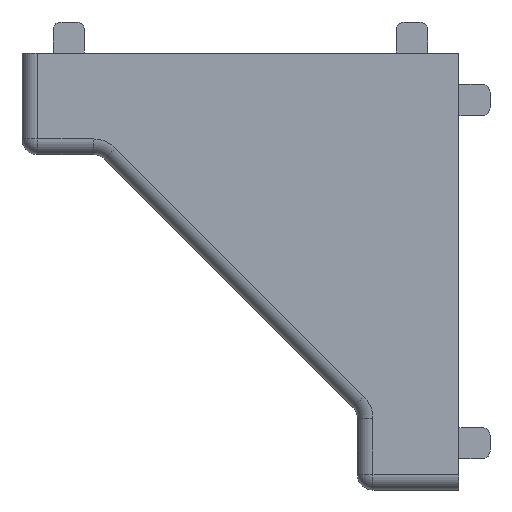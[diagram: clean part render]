
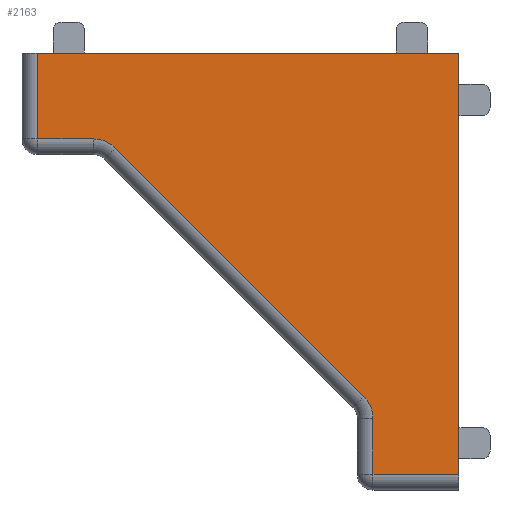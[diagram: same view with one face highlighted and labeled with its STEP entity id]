
A CAD part, left-side view. The second image highlights one B-rep face of the part: STEP entity #2163.
In plain terms, the highlighted planar face has unit normal (-1, 0, 0).
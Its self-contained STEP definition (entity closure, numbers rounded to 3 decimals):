
#166 = CARTESIAN_POINT ( 'NONE',  ( 0., 27., 0. ) ) ;
#172 = LINE ( 'NONE', #3072, #867 ) ;
#183 = CARTESIAN_POINT ( 'NONE',  ( 0., 27., -5.5 ) ) ;
#232 = DIRECTION ( 'NONE',  ( 0., -1., 0. ) ) ;
#270 = EDGE_CURVE ( 'NONE', #1317, #2797, #172, .T. ) ;
#297 = DIRECTION ( 'NONE',  ( 0., -0.707, -0.707 ) ) ;
#337 = EDGE_CURVE ( 'NONE', #927, #1317, #1480, .T. ) ;
#424 = VERTEX_POINT ( 'NONE', #2324 ) ;
#451 = DIRECTION ( 'NONE',  ( 0., 0., -1. ) ) ;
#495 = PLANE ( 'NONE',  #3065 ) ;
#530 = EDGE_CURVE ( 'NONE', #1952, #837, #3011, .T. ) ;
#611 = CARTESIAN_POINT ( 'NONE',  ( 0., 0., -5.5 ) ) ;
#642 = ORIENTED_EDGE ( 'NONE', *, *, #270, .T. ) ;
#668 = CARTESIAN_POINT ( 'NONE',  ( 0., 14.043, -14.043 ) ) ;
#741 = DIRECTION ( 'NONE',  ( 0., 0., -1. ) ) ;
#745 = ORIENTED_EDGE ( 'NONE', *, *, #2110, .T. ) ;
#816 = ORIENTED_EDGE ( 'NONE', *, *, #530, .F. ) ;
#828 = CARTESIAN_POINT ( 'NONE',  ( 0., 0., -28. ) ) ;
#837 = VERTEX_POINT ( 'NONE', #1596 ) ;
#867 = VECTOR ( 'NONE', #2699, 1000. ) ;
#927 = VERTEX_POINT ( 'NONE', #1418 ) ;
#973 = LINE ( 'NONE', #611, #3150 ) ;
#1035 = LINE ( 'NONE', #668, #2206 ) ;
#1108 = CARTESIAN_POINT ( 'NONE',  ( 0., 5.5, 0. ) ) ;
#1109 = VECTOR ( 'NONE', #1939, 1000. ) ;
#1136 = ORIENTED_EDGE ( 'NONE', *, *, #337, .T. ) ;
#1140 = CIRCLE ( 'NONE', #2071, 2. ) ;
#1180 = EDGE_CURVE ( 'NONE', #837, #2797, #1570, .T. ) ;
#1198 = EDGE_LOOP ( 'NONE', ( #816, #2906, #1751, #2289, #745, #2154, #1136, #642, #2658 ) ) ;
#1274 = CARTESIAN_POINT ( 'NONE',  ( 0., 22., -6.086 ) ) ;
#1317 = VERTEX_POINT ( 'NONE', #1705 ) ;
#1392 = AXIS2_PLACEMENT_3D ( 'NONE', #3062, #2971, #2598 ) ;
#1418 = CARTESIAN_POINT ( 'NONE',  ( 0., 5.5, -23.414 ) ) ;
#1454 = EDGE_CURVE ( 'NONE', #2661, #424, #973, .T. ) ;
#1480 = LINE ( 'NONE', #1108, #2698 ) ;
#1570 = LINE ( 'NONE', #828, #2696 ) ;
#1596 = CARTESIAN_POINT ( 'NONE',  ( 0., 0., 0. ) ) ;
#1705 = CARTESIAN_POINT ( 'NONE',  ( 0., 5.5, -27. ) ) ;
#1751 = ORIENTED_EDGE ( 'NONE', *, *, #1454, .T. ) ;
#1861 = VERTEX_POINT ( 'NONE', #3045 ) ;
#1939 = DIRECTION ( 'NONE',  ( 0., 0., -1. ) ) ;
#1952 = VERTEX_POINT ( 'NONE', #166 ) ;
#2008 = CIRCLE ( 'NONE', #1392, 2. ) ;
#2071 = AXIS2_PLACEMENT_3D ( 'NONE', #3603, #3234, #2860 ) ;
#2110 = EDGE_CURVE ( 'NONE', #3274, #1861, #1035, .T. ) ;
#2118 = FACE_OUTER_BOUND ( 'NONE', #1198, .T. ) ;
#2154 = ORIENTED_EDGE ( 'NONE', *, *, #3630, .F. ) ;
#2163 = ADVANCED_FACE ( 'NONE', ( #2118 ), #495, .T. ) ;
#2206 = VECTOR ( 'NONE', #297, 1000. ) ;
#2258 = DIRECTION ( 'NONE',  ( 0., -1., 0. ) ) ;
#2289 = ORIENTED_EDGE ( 'NONE', *, *, #2505, .F. ) ;
#2308 = CARTESIAN_POINT ( 'NONE',  ( 0., 27., -5.5 ) ) ;
#2324 = CARTESIAN_POINT ( 'NONE',  ( 0., 23.414, -5.5 ) ) ;
#2505 = EDGE_CURVE ( 'NONE', #3274, #424, #1140, .T. ) ;
#2598 = DIRECTION ( 'NONE',  ( 0., 0., 1. ) ) ;
#2633 = CARTESIAN_POINT ( 'NONE',  ( 0., 0., 0. ) ) ;
#2644 = DIRECTION ( 'NONE',  ( 0., 0., 1. ) ) ;
#2658 = ORIENTED_EDGE ( 'NONE', *, *, #1180, .F. ) ;
#2661 = VERTEX_POINT ( 'NONE', #183 ) ;
#2688 = LINE ( 'NONE', #2308, #1109 ) ;
#2696 = VECTOR ( 'NONE', #451, 1000. ) ;
#2698 = VECTOR ( 'NONE', #741, 1000. ) ;
#2699 = DIRECTION ( 'NONE',  ( 0., -1., 0. ) ) ;
#2797 = VERTEX_POINT ( 'NONE', #3578 ) ;
#2860 = DIRECTION ( 'NONE',  ( 0., 0., 1. ) ) ;
#2906 = ORIENTED_EDGE ( 'NONE', *, *, #3609, .T. ) ;
#2971 = DIRECTION ( 'NONE',  ( -1., 0., 0. ) ) ;
#3011 = LINE ( 'NONE', #2633, #3588 ) ;
#3019 = DIRECTION ( 'NONE',  ( -1., 0., 0. ) ) ;
#3045 = CARTESIAN_POINT ( 'NONE',  ( 0., 6.086, -22. ) ) ;
#3062 = CARTESIAN_POINT ( 'NONE',  ( 0., 7.5, -23.414 ) ) ;
#3065 = AXIS2_PLACEMENT_3D ( 'NONE', #3388, #3019, #2644 ) ;
#3072 = CARTESIAN_POINT ( 'NONE',  ( 0., 0., -27. ) ) ;
#3150 = VECTOR ( 'NONE', #232, 1000. ) ;
#3234 = DIRECTION ( 'NONE',  ( -1., 0., 0. ) ) ;
#3274 = VERTEX_POINT ( 'NONE', #1274 ) ;
#3388 = CARTESIAN_POINT ( 'NONE',  ( 0., 0., 0. ) ) ;
#3578 = CARTESIAN_POINT ( 'NONE',  ( 0., 0., -27. ) ) ;
#3588 = VECTOR ( 'NONE', #2258, 1000. ) ;
#3603 = CARTESIAN_POINT ( 'NONE',  ( 0., 23.414, -7.5 ) ) ;
#3609 = EDGE_CURVE ( 'NONE', #1952, #2661, #2688, .T. ) ;
#3630 = EDGE_CURVE ( 'NONE', #927, #1861, #2008, .T. ) ;
